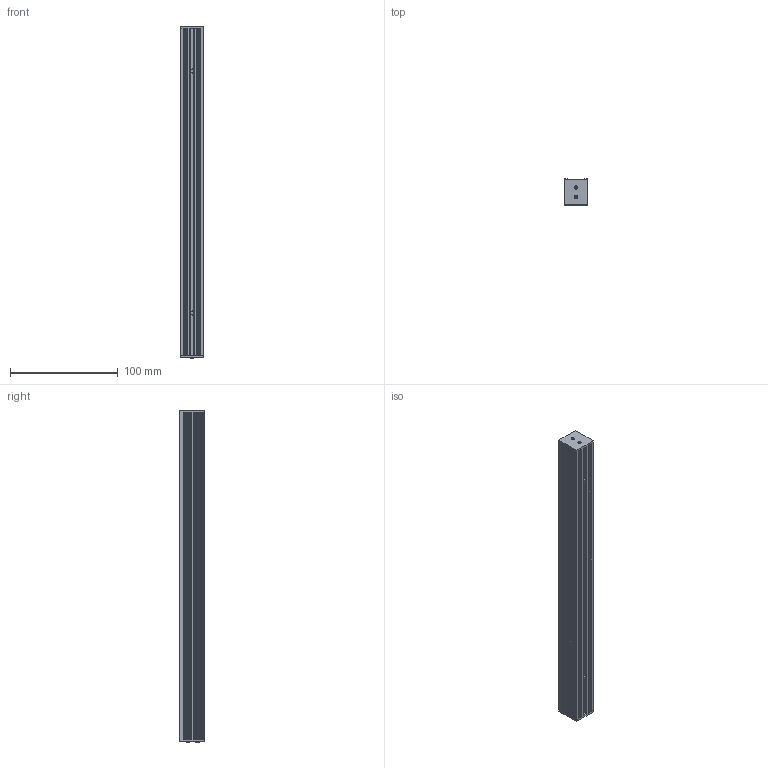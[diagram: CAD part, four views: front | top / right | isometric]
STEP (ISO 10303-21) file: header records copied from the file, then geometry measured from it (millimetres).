
FILE_DESCRIPTION((''),'2;1');
FILE_NAME('DSL','2020-03-23T',('ASUS'),(''),'PRO/ENGINEER BY PARAMETRIC TECHNOLOGY CORPORATION, 2008380','PRO/ENGINEER BY PARAMETRIC TECHNOLOGY CORPORATION, 2008380','');
FILE_SCHEMA(('CONFIG_CONTROL_DESIGN'));
Length unit declared in the file: millimetre
Products named in the file (1): DSL
Bounding box: 22 x 24.02 x 308 mm (x, y, z)
Volume: 142004.8 mm3; surface area: 54970.6 mm2
Topology: 1 solids, 5 shells, 282 faces, 719 edges, 465 vertices
Faces by surface type: plane 176, cylinder 86, cone 20
Entity records: 8477 total; most frequent: CARTESIAN_POINT 1516, DIRECTION 1440, ORIENTED_EDGE 1406, EDGE_CURVE 711, VECTOR 514, LINE 514, VERTEX_POINT 465, AXIS2_PLACEMENT_3D 463
